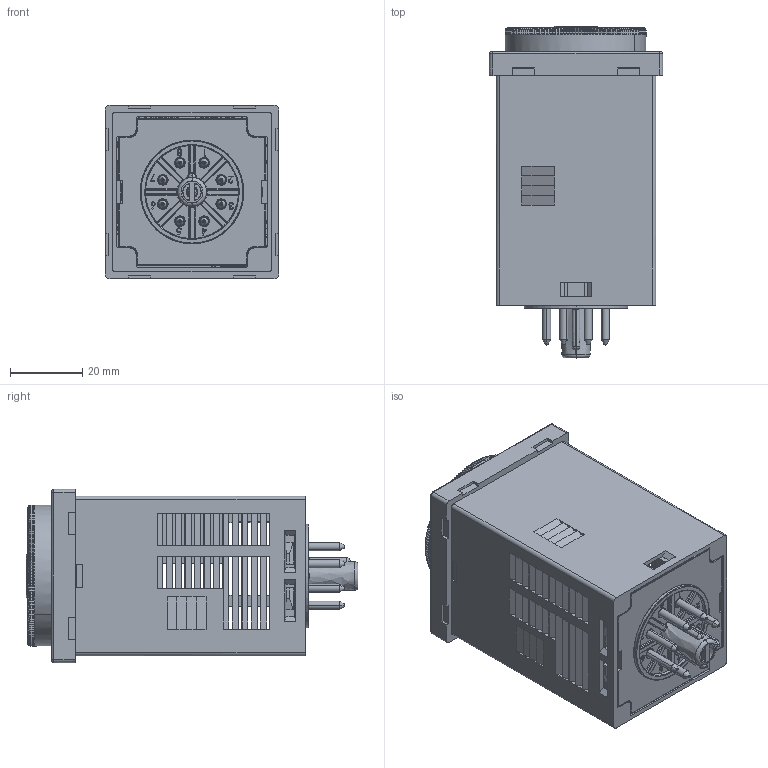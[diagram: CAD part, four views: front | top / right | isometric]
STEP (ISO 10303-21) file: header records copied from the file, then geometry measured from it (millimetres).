
FILE_DESCRIPTION( ( 'Unknown' ), '1' );
FILE_NAME( 'F:/Prodotto/PROGETTI/Catalogo 3D/88_XX/8812_rev01.stp', 'Unknown', ( 'Unknown' ), ( 'Unknown' ), 'PSStep 15.0.49', 'Unknown', ' ' );
FILE_SCHEMA( ( 'AUTOMOTIVE_DESIGN { 1 0 10303 214 1 1 1 1 }' ) );
Length unit declared in the file: millimetre
Products named in the file (3839): top
Bounding box: 48 x 91.97 x 48 mm (x, y, z)
Surface area: 35687.1 mm2 (no closed solid volume)
Topology: 0 solids, 3843 shells, 3842 faces, 20577 edges, 20439 vertices
Faces by surface type: bspline 2386, plane 1004, cylinder 452
Entity records: 346146 total; most frequent: CARTESIAN_POINT 168642, VERTEX_POINT 20437, ORIENTED_EDGE 20185, EDGE_CURVE 20185, B_SPLINE_CURVE_WITH_KNOTS 16756, DIRECTION 10591, AXIS2_PLACEMENT_3D 5295, FACE_BOUND 4254
